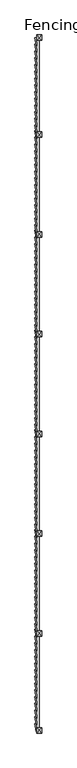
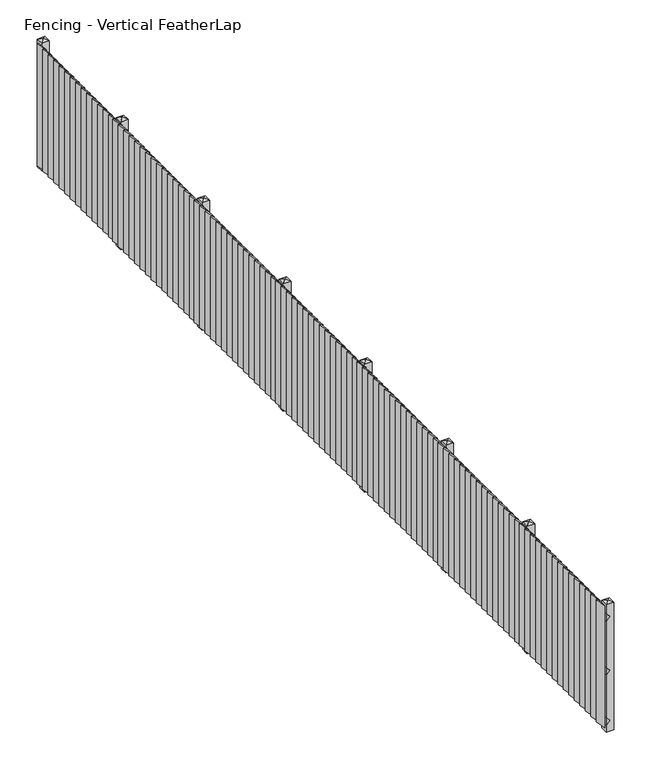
"""IFC4 building model written with IfcOpenShell, lengths in millimetres: railing geometry, Fencing - Vertical FeatherLap."""

from ifc_helpers import new_model, si_unit, frame, origin, place, context, project, spatial, polyline, outline, extrude, faceted_brep, source, transform, mapped, element, save


def fencing_vertical_featherlap_329c7854(model_context):
    return source(origin(), model_context, "Body", "SolidModel", [
        extrude(outline(polyline([(1600.0, 47498.4324334), (1650.0, 47448.4324334), (1550.0, 47448.4324334), (1600.0, 47498.4324334)])), frame((0.0, -56479.0868221, 0.0), z_axis=(0.0, 1.0, 0.0), x_axis=(0.0, 0.0, 1.0)), (0.0, 0.0, 1.0), 13000.0),
        extrude(outline(polyline([(850.0, 47498.4324334), (900.0, 47448.4324334), (800.0, 47448.4324334), (850.0, 47498.4324334)])), frame((0.0, -56479.0868221, 0.0), z_axis=(0.0, 1.0, 0.0), x_axis=(0.0, 0.0, 1.0)), (0.0, 0.0, 1.0), 13000.0),
        extrude(outline(polyline([(150.0, 47498.4324334), (200.0, 47448.4324334), (100.0, 47448.4324334), (150.0, 47498.4324334)])), frame((0.0, -56479.0868221, 0.0), z_axis=(0.0, 1.0, 0.0), x_axis=(0.0, 0.0, 1.0)), (0.0, 0.0, 1.0), 13000.0),
        extrude(outline(polyline([(47418.5500843, -43529.5694476), (47441.4725918, -43529.5694476), (47451.1115977, -43679.5694476), (47444.9991314, -43679.5694476), (47418.5500843, -43529.5694476)])), frame((0.0, 0.0, 50.0), z_axis=(0.0, 0.0, 1.0), x_axis=(1.0, 0.0, 0.0)), (0.0, 0.0, 1.0), 1700.0),
        extrude(outline(polyline([(47418.5500843, -43529.5694476), (47441.4725918, -43529.5694476), (47451.1115977, -43679.5694476), (47444.9991314, -43679.5694476), (47418.5500843, -43529.5694476)])), frame((0.0, 0.0, 50.0), z_axis=(0.0, 0.0, 1.0), x_axis=(1.0, 0.0, 0.0)), (0.0, 0.0, 1.0), 1700.0),
        extrude(outline(polyline([(47418.5500843, -43655.052073), (47441.4725918, -43655.052073), (47451.1115977, -43805.052073), (47444.9991314, -43805.052073), (47418.5500843, -43655.052073)])), frame((0.0, 0.0, 50.0), z_axis=(0.0, 0.0, 1.0), x_axis=(1.0, 0.0, 0.0)), (0.0, 0.0, 1.0), 1700.0),
        extrude(outline(polyline([(47418.5500843, -43780.5346985), (47441.4725918, -43780.5346985), (47451.1115977, -43930.5346985), (47444.9991314, -43930.5346985), (47418.5500843, -43780.5346985)])), frame((0.0, 0.0, 50.0), z_axis=(0.0, 0.0, 1.0), x_axis=(1.0, 0.0, 0.0)), (0.0, 0.0, 1.0), 1700.0),
        extrude(outline(polyline([(47418.5500843, -43906.017324), (47441.4725918, -43906.017324), (47451.1115977, -44056.017324), (47444.9991314, -44056.017324), (47418.5500843, -43906.017324)])), frame((0.0, 0.0, 50.0), z_axis=(0.0, 0.0, 1.0), x_axis=(1.0, 0.0, 0.0)), (0.0, 0.0, 1.0), 1700.0),
        extrude(outline(polyline([(47418.5500843, -44031.4999495), (47441.4725918, -44031.4999495), (47451.1115977, -44181.4999495), (47444.9991314, -44181.4999495), (47418.5500843, -44031.4999495)])), frame((0.0, 0.0, 50.0), z_axis=(0.0, 0.0, 1.0), x_axis=(1.0, 0.0, 0.0)), (0.0, 0.0, 1.0), 1700.0),
        extrude(outline(polyline([(47418.5500843, -44156.982575), (47441.4725918, -44156.982575), (47451.1115977, -44306.982575), (47444.9991314, -44306.982575), (47418.5500843, -44156.982575)])), frame((0.0, 0.0, 50.0), z_axis=(0.0, 0.0, 1.0), x_axis=(1.0, 0.0, 0.0)), (0.0, 0.0, 1.0), 1700.0),
        extrude(outline(polyline([(47418.5500843, -44282.4652004), (47441.4725918, -44282.4652004), (47451.1115977, -44432.4652004), (47444.9991314, -44432.4652004), (47418.5500843, -44282.4652004)])), frame((0.0, 0.0, 50.0), z_axis=(0.0, 0.0, 1.0), x_axis=(1.0, 0.0, 0.0)), (0.0, 0.0, 1.0), 1700.0),
        extrude(outline(polyline([(47418.5500843, -44407.9478259), (47441.4725918, -44407.9478259), (47451.1115977, -44557.9478259), (47444.9991314, -44557.9478259), (47418.5500843, -44407.9478259)])), frame((0.0, 0.0, 50.0), z_axis=(0.0, 0.0, 1.0), x_axis=(1.0, 0.0, 0.0)), (0.0, 0.0, 1.0), 1700.0),
        extrude(outline(polyline([(47418.5500843, -44533.4304514), (47441.4725918, -44533.4304514), (47451.1115977, -44683.4304514), (47444.9991314, -44683.4304514), (47418.5500843, -44533.4304514)])), frame((0.0, 0.0, 50.0), z_axis=(0.0, 0.0, 1.0), x_axis=(1.0, 0.0, 0.0)), (0.0, 0.0, 1.0), 1700.0),
        extrude(outline(polyline([(47418.5500843, -44658.9130769), (47441.4725918, -44658.9130769), (47451.1115977, -44808.9130769), (47444.9991314, -44808.9130769), (47418.5500843, -44658.9130769)])), frame((0.0, 0.0, 50.0), z_axis=(0.0, 0.0, 1.0), x_axis=(1.0, 0.0, 0.0)), (0.0, 0.0, 1.0), 1700.0),
        extrude(outline(polyline([(47418.5500843, -44784.3957024), (47441.4725918, -44784.3957024), (47451.1115977, -44934.3957024), (47444.9991314, -44934.3957024), (47418.5500843, -44784.3957024)])), frame((0.0, 0.0, 50.0), z_axis=(0.0, 0.0, 1.0), x_axis=(1.0, 0.0, 0.0)), (0.0, 0.0, 1.0), 1700.0),
        extrude(outline(polyline([(47418.5500843, -44909.8783279), (47441.4725918, -44909.8783279), (47451.1115977, -45059.8783279), (47444.9991314, -45059.8783279), (47418.5500843, -44909.8783279)])), frame((0.0, 0.0, 50.0), z_axis=(0.0, 0.0, 1.0), x_axis=(1.0, 0.0, 0.0)), (0.0, 0.0, 1.0), 1700.0),
        extrude(outline(polyline([(47418.5500843, -45035.3609533), (47441.4725918, -45035.3609533), (47451.1115977, -45185.3609533), (47444.9991314, -45185.3609533), (47418.5500843, -45035.3609533)])), frame((0.0, 0.0, 50.0), z_axis=(0.0, 0.0, 1.0), x_axis=(1.0, 0.0, 0.0)), (0.0, 0.0, 1.0), 1700.0),
        extrude(outline(polyline([(47418.5500843, -45160.8435788), (47441.4725918, -45160.8435788), (47451.1115977, -45310.8435788), (47444.9991314, -45310.8435788), (47418.5500843, -45160.8435788)])), frame((0.0, 0.0, 50.0), z_axis=(0.0, 0.0, 1.0), x_axis=(1.0, 0.0, 0.0)), (0.0, 0.0, 1.0), 1700.0),
        extrude(outline(polyline([(47418.5500843, -45261.2296792), (47441.4725918, -45261.2296792), (47451.1115977, -45411.2296792), (47444.9991314, -45411.2296792), (47418.5500843, -45261.2296792)])), frame((0.0, 0.0, 50.0), z_axis=(0.0, 0.0, 1.0), x_axis=(1.0, 0.0, 0.0)), (0.0, 0.0, 1.0), 1700.0),
        faceted_brep([(47448.4324334, -45286.2296792, 0.0), (47548.4324334, -45286.2296792, 0.0), (47548.4324334, -45386.2296792, 0.0), (47448.4324334, -45386.2296792, 0.0), (47448.4324334, -45386.2296792, 1777.8503862), (47448.4324334, -45286.2296792, 1777.8503862), (47548.4324334, -45386.2296792, 1777.8503862), (47548.4324334, -45286.2296792, 1777.8503862), (47498.4324334, -45336.2296792, 1800.0)], [[[0, 1, 2, 3]], [[0, 3, 4, 5]], [[3, 2, 6, 4]], [[2, 1, 7, 6]], [[1, 0, 5, 7]], [[5, 4, 8]], [[6, 7, 8]], [[7, 5, 8]], [[4, 6, 8]]]),
        extrude(outline(polyline([(47418.5500843, -45386.7123047), (47441.4725918, -45386.7123047), (47451.1115977, -45536.7123047), (47444.9991314, -45536.7123047), (47418.5500843, -45386.7123047)])), frame((0.0, 0.0, 50.0), z_axis=(0.0, 0.0, 1.0), x_axis=(1.0, 0.0, 0.0)), (0.0, 0.0, 1.0), 1700.0),
        extrude(outline(polyline([(47418.5500843, -45386.7123047), (47441.4725918, -45386.7123047), (47451.1115977, -45536.7123047), (47444.9991314, -45536.7123047), (47418.5500843, -45386.7123047)])), frame((0.0, 0.0, 50.0), z_axis=(0.0, 0.0, 1.0), x_axis=(1.0, 0.0, 0.0)), (0.0, 0.0, 1.0), 1700.0),
        extrude(outline(polyline([(47418.5500843, -45512.1949302), (47441.4725918, -45512.1949302), (47451.1115977, -45662.1949302), (47444.9991314, -45662.1949302), (47418.5500843, -45512.1949302)])), frame((0.0, 0.0, 50.0), z_axis=(0.0, 0.0, 1.0), x_axis=(1.0, 0.0, 0.0)), (0.0, 0.0, 1.0), 1700.0),
        extrude(outline(polyline([(47418.5500843, -45637.6775557), (47441.4725918, -45637.6775557), (47451.1115977, -45787.6775557), (47444.9991314, -45787.6775557), (47418.5500843, -45637.6775557)])), frame((0.0, 0.0, 50.0), z_axis=(0.0, 0.0, 1.0), x_axis=(1.0, 0.0, 0.0)), (0.0, 0.0, 1.0), 1700.0),
        extrude(outline(polyline([(47418.5500843, -45763.1601811), (47441.4725918, -45763.1601811), (47451.1115977, -45913.1601811), (47444.9991314, -45913.1601811), (47418.5500843, -45763.1601811)])), frame((0.0, 0.0, 50.0), z_axis=(0.0, 0.0, 1.0), x_axis=(1.0, 0.0, 0.0)), (0.0, 0.0, 1.0), 1700.0),
        extrude(outline(polyline([(47418.5500843, -45888.6428066), (47441.4725918, -45888.6428066), (47451.1115977, -46038.6428066), (47444.9991314, -46038.6428066), (47418.5500843, -45888.6428066)])), frame((0.0, 0.0, 50.0), z_axis=(0.0, 0.0, 1.0), x_axis=(1.0, 0.0, 0.0)), (0.0, 0.0, 1.0), 1700.0),
        extrude(outline(polyline([(47418.5500843, -46014.1254321), (47441.4725918, -46014.1254321), (47451.1115977, -46164.1254321), (47444.9991314, -46164.1254321), (47418.5500843, -46014.1254321)])), frame((0.0, 0.0, 50.0), z_axis=(0.0, 0.0, 1.0), x_axis=(1.0, 0.0, 0.0)), (0.0, 0.0, 1.0), 1700.0),
        extrude(outline(polyline([(47418.5500843, -46139.6080576), (47441.4725918, -46139.6080576), (47451.1115977, -46289.6080576), (47444.9991314, -46289.6080576), (47418.5500843, -46139.6080576)])), frame((0.0, 0.0, 50.0), z_axis=(0.0, 0.0, 1.0), x_axis=(1.0, 0.0, 0.0)), (0.0, 0.0, 1.0), 1700.0),
        extrude(outline(polyline([(47418.5500843, -46265.0906831), (47441.4725918, -46265.0906831), (47451.1115977, -46415.0906831), (47444.9991314, -46415.0906831), (47418.5500843, -46265.0906831)])), frame((0.0, 0.0, 50.0), z_axis=(0.0, 0.0, 1.0), x_axis=(1.0, 0.0, 0.0)), (0.0, 0.0, 1.0), 1700.0),
        extrude(outline(polyline([(47418.5500843, -46390.5733086), (47441.4725918, -46390.5733086), (47451.1115977, -46540.5733086), (47444.9991314, -46540.5733086), (47418.5500843, -46390.5733086)])), frame((0.0, 0.0, 50.0), z_axis=(0.0, 0.0, 1.0), x_axis=(1.0, 0.0, 0.0)), (0.0, 0.0, 1.0), 1700.0),
        extrude(outline(polyline([(47418.5500843, -46516.055934), (47441.4725918, -46516.055934), (47451.1115977, -46666.055934), (47444.9991314, -46666.055934), (47418.5500843, -46516.055934)])), frame((0.0, 0.0, 50.0), z_axis=(0.0, 0.0, 1.0), x_axis=(1.0, 0.0, 0.0)), (0.0, 0.0, 1.0), 1700.0),
        extrude(outline(polyline([(47418.5500843, -46641.5385595), (47441.4725918, -46641.5385595), (47451.1115977, -46791.5385595), (47444.9991314, -46791.5385595), (47418.5500843, -46641.5385595)])), frame((0.0, 0.0, 50.0), z_axis=(0.0, 0.0, 1.0), x_axis=(1.0, 0.0, 0.0)), (0.0, 0.0, 1.0), 1700.0),
        extrude(outline(polyline([(47418.5500843, -46767.021185), (47441.4725918, -46767.021185), (47451.1115977, -46917.021185), (47444.9991314, -46917.021185), (47418.5500843, -46767.021185)])), frame((0.0, 0.0, 50.0), z_axis=(0.0, 0.0, 1.0), x_axis=(1.0, 0.0, 0.0)), (0.0, 0.0, 1.0), 1700.0),
        extrude(outline(polyline([(47418.5500843, -46892.5038105), (47441.4725918, -46892.5038105), (47451.1115977, -47042.5038105), (47444.9991314, -47042.5038105), (47418.5500843, -46892.5038105)])), frame((0.0, 0.0, 50.0), z_axis=(0.0, 0.0, 1.0), x_axis=(1.0, 0.0, 0.0)), (0.0, 0.0, 1.0), 1700.0),
        extrude(outline(polyline([(47418.5500843, -47017.986436), (47441.4725918, -47017.986436), (47451.1115977, -47167.986436), (47444.9991314, -47167.986436), (47418.5500843, -47017.986436)])), frame((0.0, 0.0, 50.0), z_axis=(0.0, 0.0, 1.0), x_axis=(1.0, 0.0, 0.0)), (0.0, 0.0, 1.0), 1700.0),
        extrude(outline(polyline([(47418.5500843, -47118.3725364), (47441.4725918, -47118.3725364), (47451.1115977, -47268.3725364), (47444.9991314, -47268.3725364), (47418.5500843, -47118.3725364)])), frame((0.0, 0.0, 50.0), z_axis=(0.0, 0.0, 1.0), x_axis=(1.0, 0.0, 0.0)), (0.0, 0.0, 1.0), 1700.0),
        faceted_brep([(47448.4324334, -47143.3725364, 0.0), (47548.4324334, -47143.3725364, 0.0), (47548.4324334, -47243.3725364, 0.0), (47448.4324334, -47243.3725364, 0.0), (47448.4324334, -47243.3725364, 1777.8503862), (47448.4324334, -47143.3725364, 1777.8503862), (47548.4324334, -47243.3725364, 1777.8503862), (47548.4324334, -47143.3725364, 1777.8503862), (47498.4324334, -47193.3725364, 1800.0)], [[[0, 1, 2, 3]], [[0, 3, 4, 5]], [[3, 2, 6, 4]], [[2, 1, 7, 6]], [[1, 0, 5, 7]], [[5, 4, 8]], [[6, 7, 8]], [[7, 5, 8]], [[4, 6, 8]]]),
        extrude(outline(polyline([(47418.5500843, -47243.8551618), (47441.4725918, -47243.8551618), (47451.1115977, -47393.8551618), (47444.9991314, -47393.8551618), (47418.5500843, -47243.8551618)])), frame((0.0, 0.0, 50.0), z_axis=(0.0, 0.0, 1.0), x_axis=(1.0, 0.0, 0.0)), (0.0, 0.0, 1.0), 1700.0),
        extrude(outline(polyline([(47418.5500843, -47243.8551618), (47441.4725918, -47243.8551618), (47451.1115977, -47393.8551618), (47444.9991314, -47393.8551618), (47418.5500843, -47243.8551618)])), frame((0.0, 0.0, 50.0), z_axis=(0.0, 0.0, 1.0), x_axis=(1.0, 0.0, 0.0)), (0.0, 0.0, 1.0), 1700.0),
        extrude(outline(polyline([(47418.5500843, -47369.3377873), (47441.4725918, -47369.3377873), (47451.1115977, -47519.3377873), (47444.9991314, -47519.3377873), (47418.5500843, -47369.3377873)])), frame((0.0, 0.0, 50.0), z_axis=(0.0, 0.0, 1.0), x_axis=(1.0, 0.0, 0.0)), (0.0, 0.0, 1.0), 1700.0),
        extrude(outline(polyline([(47418.5500843, -47494.8204128), (47441.4725918, -47494.8204128), (47451.1115977, -47644.8204128), (47444.9991314, -47644.8204128), (47418.5500843, -47494.8204128)])), frame((0.0, 0.0, 50.0), z_axis=(0.0, 0.0, 1.0), x_axis=(1.0, 0.0, 0.0)), (0.0, 0.0, 1.0), 1700.0),
        extrude(outline(polyline([(47418.5500843, -47620.3030383), (47441.4725918, -47620.3030383), (47451.1115977, -47770.3030383), (47444.9991314, -47770.3030383), (47418.5500843, -47620.3030383)])), frame((0.0, 0.0, 50.0), z_axis=(0.0, 0.0, 1.0), x_axis=(1.0, 0.0, 0.0)), (0.0, 0.0, 1.0), 1700.0),
        extrude(outline(polyline([(47418.5500843, -47745.7856638), (47441.4725918, -47745.7856638), (47451.1115977, -47895.7856638), (47444.9991314, -47895.7856638), (47418.5500843, -47745.7856638)])), frame((0.0, 0.0, 50.0), z_axis=(0.0, 0.0, 1.0), x_axis=(1.0, 0.0, 0.0)), (0.0, 0.0, 1.0), 1700.0),
        extrude(outline(polyline([(47418.5500843, -47871.2682893), (47441.4725918, -47871.2682893), (47451.1115977, -48021.2682893), (47444.9991314, -48021.2682893), (47418.5500843, -47871.2682893)])), frame((0.0, 0.0, 50.0), z_axis=(0.0, 0.0, 1.0), x_axis=(1.0, 0.0, 0.0)), (0.0, 0.0, 1.0), 1700.0),
        extrude(outline(polyline([(47418.5500843, -47996.7509147), (47441.4725918, -47996.7509147), (47451.1115977, -48146.7509147), (47444.9991314, -48146.7509147), (47418.5500843, -47996.7509147)])), frame((0.0, 0.0, 50.0), z_axis=(0.0, 0.0, 1.0), x_axis=(1.0, 0.0, 0.0)), (0.0, 0.0, 1.0), 1700.0),
        extrude(outline(polyline([(47418.5500843, -48122.2335402), (47441.4725918, -48122.2335402), (47451.1115977, -48272.2335402), (47444.9991314, -48272.2335402), (47418.5500843, -48122.2335402)])), frame((0.0, 0.0, 50.0), z_axis=(0.0, 0.0, 1.0), x_axis=(1.0, 0.0, 0.0)), (0.0, 0.0, 1.0), 1700.0),
        extrude(outline(polyline([(47418.5500843, -48247.7161657), (47441.4725918, -48247.7161657), (47451.1115977, -48397.7161657), (47444.9991314, -48397.7161657), (47418.5500843, -48247.7161657)])), frame((0.0, 0.0, 50.0), z_axis=(0.0, 0.0, 1.0), x_axis=(1.0, 0.0, 0.0)), (0.0, 0.0, 1.0), 1700.0),
        extrude(outline(polyline([(47418.5500843, -48373.1987912), (47441.4725918, -48373.1987912), (47451.1115977, -48523.1987912), (47444.9991314, -48523.1987912), (47418.5500843, -48373.1987912)])), frame((0.0, 0.0, 50.0), z_axis=(0.0, 0.0, 1.0), x_axis=(1.0, 0.0, 0.0)), (0.0, 0.0, 1.0), 1700.0),
        extrude(outline(polyline([(47418.5500843, -48498.6814167), (47441.4725918, -48498.6814167), (47451.1115977, -48648.6814167), (47444.9991314, -48648.6814167), (47418.5500843, -48498.6814167)])), frame((0.0, 0.0, 50.0), z_axis=(0.0, 0.0, 1.0), x_axis=(1.0, 0.0, 0.0)), (0.0, 0.0, 1.0), 1700.0),
        extrude(outline(polyline([(47418.5500843, -48624.1640421), (47441.4725918, -48624.1640421), (47451.1115977, -48774.1640421), (47444.9991314, -48774.1640421), (47418.5500843, -48624.1640421)])), frame((0.0, 0.0, 50.0), z_axis=(0.0, 0.0, 1.0), x_axis=(1.0, 0.0, 0.0)), (0.0, 0.0, 1.0), 1700.0),
        extrude(outline(polyline([(47418.5500843, -48749.6466676), (47441.4725918, -48749.6466676), (47451.1115977, -48899.6466676), (47444.9991314, -48899.6466676), (47418.5500843, -48749.6466676)])), frame((0.0, 0.0, 50.0), z_axis=(0.0, 0.0, 1.0), x_axis=(1.0, 0.0, 0.0)), (0.0, 0.0, 1.0), 1700.0),
        extrude(outline(polyline([(47418.5500843, -48875.1292931), (47441.4725918, -48875.1292931), (47451.1115977, -49025.1292931), (47444.9991314, -49025.1292931), (47418.5500843, -48875.1292931)])), frame((0.0, 0.0, 50.0), z_axis=(0.0, 0.0, 1.0), x_axis=(1.0, 0.0, 0.0)), (0.0, 0.0, 1.0), 1700.0),
        extrude(outline(polyline([(47418.5500843, -48975.5153935), (47441.4725918, -48975.5153935), (47451.1115977, -49125.5153935), (47444.9991314, -49125.5153935), (47418.5500843, -48975.5153935)])), frame((0.0, 0.0, 50.0), z_axis=(0.0, 0.0, 1.0), x_axis=(1.0, 0.0, 0.0)), (0.0, 0.0, 1.0), 1700.0),
        faceted_brep([(47448.4324334, -49000.5153935, 0.0), (47548.4324334, -49000.5153935, 0.0), (47548.4324334, -49100.5153935, 0.0), (47448.4324334, -49100.5153935, 0.0), (47448.4324334, -49100.5153935, 1777.8503862), (47448.4324334, -49000.5153935, 1777.8503862), (47548.4324334, -49100.5153935, 1777.8503862), (47548.4324334, -49000.5153935, 1777.8503862), (47498.4324334, -49050.5153935, 1800.0)], [[[0, 1, 2, 3]], [[0, 3, 4, 5]], [[3, 2, 6, 4]], [[2, 1, 7, 6]], [[1, 0, 5, 7]], [[5, 4, 8]], [[6, 7, 8]], [[7, 5, 8]], [[4, 6, 8]]]),
        extrude(outline(polyline([(47418.5500843, -49100.998019), (47441.4725918, -49100.998019), (47451.1115977, -49250.998019), (47444.9991314, -49250.998019), (47418.5500843, -49100.998019)])), frame((0.0, 0.0, 50.0), z_axis=(0.0, 0.0, 1.0), x_axis=(1.0, 0.0, 0.0)), (0.0, 0.0, 1.0), 1700.0),
        extrude(outline(polyline([(47418.5500843, -49100.998019), (47441.4725918, -49100.998019), (47451.1115977, -49250.998019), (47444.9991314, -49250.998019), (47418.5500843, -49100.998019)])), frame((0.0, 0.0, 50.0), z_axis=(0.0, 0.0, 1.0), x_axis=(1.0, 0.0, 0.0)), (0.0, 0.0, 1.0), 1700.0),
        extrude(outline(polyline([(47418.5500843, -49226.4806445), (47441.4725918, -49226.4806445), (47451.1115977, -49376.4806445), (47444.9991314, -49376.4806445), (47418.5500843, -49226.4806445)])), frame((0.0, 0.0, 50.0), z_axis=(0.0, 0.0, 1.0), x_axis=(1.0, 0.0, 0.0)), (0.0, 0.0, 1.0), 1700.0),
        extrude(outline(polyline([(47418.5500843, -49351.9632699), (47441.4725918, -49351.9632699), (47451.1115977, -49501.9632699), (47444.9991314, -49501.9632699), (47418.5500843, -49351.9632699)])), frame((0.0, 0.0, 50.0), z_axis=(0.0, 0.0, 1.0), x_axis=(1.0, 0.0, 0.0)), (0.0, 0.0, 1.0), 1700.0),
        extrude(outline(polyline([(47418.5500843, -49477.4458954), (47441.4725918, -49477.4458954), (47451.1115977, -49627.4458954), (47444.9991314, -49627.4458954), (47418.5500843, -49477.4458954)])), frame((0.0, 0.0, 50.0), z_axis=(0.0, 0.0, 1.0), x_axis=(1.0, 0.0, 0.0)), (0.0, 0.0, 1.0), 1700.0),
        extrude(outline(polyline([(47418.5500843, -49602.9285209), (47441.4725918, -49602.9285209), (47451.1115977, -49752.9285209), (47444.9991314, -49752.9285209), (47418.5500843, -49602.9285209)])), frame((0.0, 0.0, 50.0), z_axis=(0.0, 0.0, 1.0), x_axis=(1.0, 0.0, 0.0)), (0.0, 0.0, 1.0), 1700.0),
        extrude(outline(polyline([(47418.5500843, -49728.4111464), (47441.4725918, -49728.4111464), (47451.1115977, -49878.4111464), (47444.9991314, -49878.4111464), (47418.5500843, -49728.4111464)])), frame((0.0, 0.0, 50.0), z_axis=(0.0, 0.0, 1.0), x_axis=(1.0, 0.0, 0.0)), (0.0, 0.0, 1.0), 1700.0),
        extrude(outline(polyline([(47418.5500843, -49853.8937719), (47441.4725918, -49853.8937719), (47451.1115977, -50003.8937719), (47444.9991314, -50003.8937719), (47418.5500843, -49853.8937719)])), frame((0.0, 0.0, 50.0), z_axis=(0.0, 0.0, 1.0), x_axis=(1.0, 0.0, 0.0)), (0.0, 0.0, 1.0), 1700.0),
        extrude(outline(polyline([(47418.5500843, -49979.3763974), (47441.4725918, -49979.3763974), (47451.1115977, -50129.3763974), (47444.9991314, -50129.3763974), (47418.5500843, -49979.3763974)])), frame((0.0, 0.0, 50.0), z_axis=(0.0, 0.0, 1.0), x_axis=(1.0, 0.0, 0.0)), (0.0, 0.0, 1.0), 1700.0),
        extrude(outline(polyline([(47418.5500843, -50104.8590228), (47441.4725918, -50104.8590228), (47451.1115977, -50254.8590228), (47444.9991314, -50254.8590228), (47418.5500843, -50104.8590228)])), frame((0.0, 0.0, 50.0), z_axis=(0.0, 0.0, 1.0), x_axis=(1.0, 0.0, 0.0)), (0.0, 0.0, 1.0), 1700.0),
        extrude(outline(polyline([(47418.5500843, -50230.3416483), (47441.4725918, -50230.3416483), (47451.1115977, -50380.3416483), (47444.9991314, -50380.3416483), (47418.5500843, -50230.3416483)])), frame((0.0, 0.0, 50.0), z_axis=(0.0, 0.0, 1.0), x_axis=(1.0, 0.0, 0.0)), (0.0, 0.0, 1.0), 1700.0),
        extrude(outline(polyline([(47418.5500843, -50355.8242738), (47441.4725918, -50355.8242738), (47451.1115977, -50505.8242738), (47444.9991314, -50505.8242738), (47418.5500843, -50355.8242738)])), frame((0.0, 0.0, 50.0), z_axis=(0.0, 0.0, 1.0), x_axis=(1.0, 0.0, 0.0)), (0.0, 0.0, 1.0), 1700.0),
        extrude(outline(polyline([(47418.5500843, -50481.3068993), (47441.4725918, -50481.3068993), (47451.1115977, -50631.3068993), (47444.9991314, -50631.3068993), (47418.5500843, -50481.3068993)])), frame((0.0, 0.0, 50.0), z_axis=(0.0, 0.0, 1.0), x_axis=(1.0, 0.0, 0.0)), (0.0, 0.0, 1.0), 1700.0),
        extrude(outline(polyline([(47418.5500843, -50606.7895248), (47441.4725918, -50606.7895248), (47451.1115977, -50756.7895248), (47444.9991314, -50756.7895248), (47418.5500843, -50606.7895248)])), frame((0.0, 0.0, 50.0), z_axis=(0.0, 0.0, 1.0), x_axis=(1.0, 0.0, 0.0)), (0.0, 0.0, 1.0), 1700.0),
        extrude(outline(polyline([(47418.5500843, -50732.2721503), (47441.4725918, -50732.2721503), (47451.1115977, -50882.2721503), (47444.9991314, -50882.2721503), (47418.5500843, -50732.2721503)])), frame((0.0, 0.0, 50.0), z_axis=(0.0, 0.0, 1.0), x_axis=(1.0, 0.0, 0.0)), (0.0, 0.0, 1.0), 1700.0),
        extrude(outline(polyline([(47418.5500843, -50832.6582506), (47441.4725918, -50832.6582506), (47451.1115977, -50982.6582506), (47444.9991314, -50982.6582506), (47418.5500843, -50832.6582506)])), frame((0.0, 0.0, 50.0), z_axis=(0.0, 0.0, 1.0), x_axis=(1.0, 0.0, 0.0)), (0.0, 0.0, 1.0), 1700.0),
        faceted_brep([(47448.4324334, -50857.6582506, 0.0), (47548.4324334, -50857.6582506, 0.0), (47548.4324334, -50957.6582506, 0.0), (47448.4324334, -50957.6582506, 0.0), (47448.4324334, -50957.6582506, 1777.8503862), (47448.4324334, -50857.6582506, 1777.8503862), (47548.4324334, -50957.6582506, 1777.8503862), (47548.4324334, -50857.6582506, 1777.8503862), (47498.4324334, -50907.6582506, 1800.0)], [[[0, 1, 2, 3]], [[0, 3, 4, 5]], [[3, 2, 6, 4]], [[2, 1, 7, 6]], [[1, 0, 5, 7]], [[5, 4, 8]], [[6, 7, 8]], [[7, 5, 8]], [[4, 6, 8]]]),
        extrude(outline(polyline([(47418.5500843, -50958.1408761), (47441.4725918, -50958.1408761), (47451.1115977, -51108.1408761), (47444.9991314, -51108.1408761), (47418.5500843, -50958.1408761)])), frame((0.0, 0.0, 50.0), z_axis=(0.0, 0.0, 1.0), x_axis=(1.0, 0.0, 0.0)), (0.0, 0.0, 1.0), 1700.0),
        extrude(outline(polyline([(47418.5500843, -50958.1408761), (47441.4725918, -50958.1408761), (47451.1115977, -51108.1408761), (47444.9991314, -51108.1408761), (47418.5500843, -50958.1408761)])), frame((0.0, 0.0, 50.0), z_axis=(0.0, 0.0, 1.0), x_axis=(1.0, 0.0, 0.0)), (0.0, 0.0, 1.0), 1700.0),
        extrude(outline(polyline([(47418.5500843, -51083.6235016), (47441.4725918, -51083.6235016), (47451.1115977, -51233.6235016), (47444.9991314, -51233.6235016), (47418.5500843, -51083.6235016)])), frame((0.0, 0.0, 50.0), z_axis=(0.0, 0.0, 1.0), x_axis=(1.0, 0.0, 0.0)), (0.0, 0.0, 1.0), 1700.0),
        extrude(outline(polyline([(47418.5500843, -51209.1061271), (47441.4725918, -51209.1061271), (47451.1115977, -51359.1061271), (47444.9991314, -51359.1061271), (47418.5500843, -51209.1061271)])), frame((0.0, 0.0, 50.0), z_axis=(0.0, 0.0, 1.0), x_axis=(1.0, 0.0, 0.0)), (0.0, 0.0, 1.0), 1700.0),
        extrude(outline(polyline([(47418.5500843, -51334.5887526), (47441.4725918, -51334.5887526), (47451.1115977, -51484.5887526), (47444.9991314, -51484.5887526), (47418.5500843, -51334.5887526)])), frame((0.0, 0.0, 50.0), z_axis=(0.0, 0.0, 1.0), x_axis=(1.0, 0.0, 0.0)), (0.0, 0.0, 1.0), 1700.0),
        extrude(outline(polyline([(47418.5500843, -51460.0713781), (47441.4725918, -51460.0713781), (47451.1115977, -51610.0713781), (47444.9991314, -51610.0713781), (47418.5500843, -51460.0713781)])), frame((0.0, 0.0, 50.0), z_axis=(0.0, 0.0, 1.0), x_axis=(1.0, 0.0, 0.0)), (0.0, 0.0, 1.0), 1700.0),
        extrude(outline(polyline([(47418.5500843, -51585.5540035), (47441.4725918, -51585.5540035), (47451.1115977, -51735.5540035), (47444.9991314, -51735.5540035), (47418.5500843, -51585.5540035)])), frame((0.0, 0.0, 50.0), z_axis=(0.0, 0.0, 1.0), x_axis=(1.0, 0.0, 0.0)), (0.0, 0.0, 1.0), 1700.0),
        extrude(outline(polyline([(47418.5500843, -51711.036629), (47441.4725918, -51711.036629), (47451.1115977, -51861.036629), (47444.9991314, -51861.036629), (47418.5500843, -51711.036629)])), frame((0.0, 0.0, 50.0), z_axis=(0.0, 0.0, 1.0), x_axis=(1.0, 0.0, 0.0)), (0.0, 0.0, 1.0), 1700.0),
        extrude(outline(polyline([(47418.5500843, -51836.5192545), (47441.4725918, -51836.5192545), (47451.1115977, -51986.5192545), (47444.9991314, -51986.5192545), (47418.5500843, -51836.5192545)])), frame((0.0, 0.0, 50.0), z_axis=(0.0, 0.0, 1.0), x_axis=(1.0, 0.0, 0.0)), (0.0, 0.0, 1.0), 1700.0),
        extrude(outline(polyline([(47418.5500843, -51962.00188), (47441.4725918, -51962.00188), (47451.1115977, -52112.00188), (47444.9991314, -52112.00188), (47418.5500843, -51962.00188)])), frame((0.0, 0.0, 50.0), z_axis=(0.0, 0.0, 1.0), x_axis=(1.0, 0.0, 0.0)), (0.0, 0.0, 1.0), 1700.0),
        extrude(outline(polyline([(47418.5500843, -52087.4845055), (47441.4725918, -52087.4845055), (47451.1115977, -52237.4845055), (47444.9991314, -52237.4845055), (47418.5500843, -52087.4845055)])), frame((0.0, 0.0, 50.0), z_axis=(0.0, 0.0, 1.0), x_axis=(1.0, 0.0, 0.0)), (0.0, 0.0, 1.0), 1700.0),
        extrude(outline(polyline([(47418.5500843, -52212.967131), (47441.4725918, -52212.967131), (47451.1115977, -52362.967131), (47444.9991314, -52362.967131), (47418.5500843, -52212.967131)])), frame((0.0, 0.0, 50.0), z_axis=(0.0, 0.0, 1.0), x_axis=(1.0, 0.0, 0.0)), (0.0, 0.0, 1.0), 1700.0),
        extrude(outline(polyline([(47418.5500843, -52338.4497564), (47441.4725918, -52338.4497564), (47451.1115977, -52488.4497564), (47444.9991314, -52488.4497564), (47418.5500843, -52338.4497564)])), frame((0.0, 0.0, 50.0), z_axis=(0.0, 0.0, 1.0), x_axis=(1.0, 0.0, 0.0)), (0.0, 0.0, 1.0), 1700.0),
        extrude(outline(polyline([(47418.5500843, -52463.9323819), (47441.4725918, -52463.9323819), (47451.1115977, -52613.9323819), (47444.9991314, -52613.9323819), (47418.5500843, -52463.9323819)])), frame((0.0, 0.0, 50.0), z_axis=(0.0, 0.0, 1.0), x_axis=(1.0, 0.0, 0.0)), (0.0, 0.0, 1.0), 1700.0),
        extrude(outline(polyline([(47418.5500843, -52589.4150074), (47441.4725918, -52589.4150074), (47451.1115977, -52739.4150074), (47444.9991314, -52739.4150074), (47418.5500843, -52589.4150074)])), frame((0.0, 0.0, 50.0), z_axis=(0.0, 0.0, 1.0), x_axis=(1.0, 0.0, 0.0)), (0.0, 0.0, 1.0), 1700.0),
        extrude(outline(polyline([(47418.5500843, -52689.8011078), (47441.4725918, -52689.8011078), (47451.1115977, -52839.8011078), (47444.9991314, -52839.8011078), (47418.5500843, -52689.8011078)])), frame((0.0, 0.0, 50.0), z_axis=(0.0, 0.0, 1.0), x_axis=(1.0, 0.0, 0.0)), (0.0, 0.0, 1.0), 1700.0),
        faceted_brep([(47448.4324334, -52714.8011078, 0.0), (47548.4324334, -52714.8011078, 0.0), (47548.4324334, -52814.8011078, 0.0), (47448.4324334, -52814.8011078, 0.0), (47448.4324334, -52814.8011078, 1777.8503862), (47448.4324334, -52714.8011078, 1777.8503862), (47548.4324334, -52814.8011078, 1777.8503862), (47548.4324334, -52714.8011078, 1777.8503862), (47498.4324334, -52764.8011078, 1800.0)], [[[0, 1, 2, 3]], [[0, 3, 4, 5]], [[3, 2, 6, 4]], [[2, 1, 7, 6]], [[1, 0, 5, 7]], [[5, 4, 8]], [[6, 7, 8]], [[7, 5, 8]], [[4, 6, 8]]]),
        extrude(outline(polyline([(47418.5500843, -52815.2837333), (47441.4725918, -52815.2837333), (47451.1115977, -52965.2837333), (47444.9991314, -52965.2837333), (47418.5500843, -52815.2837333)])), frame((0.0, 0.0, 50.0), z_axis=(0.0, 0.0, 1.0), x_axis=(1.0, 0.0, 0.0)), (0.0, 0.0, 1.0), 1700.0),
        extrude(outline(polyline([(47418.5500843, -52815.2837333), (47441.4725918, -52815.2837333), (47451.1115977, -52965.2837333), (47444.9991314, -52965.2837333), (47418.5500843, -52815.2837333)])), frame((0.0, 0.0, 50.0), z_axis=(0.0, 0.0, 1.0), x_axis=(1.0, 0.0, 0.0)), (0.0, 0.0, 1.0), 1700.0),
        extrude(outline(polyline([(47418.5500843, -52940.7663588), (47441.4725918, -52940.7663588), (47451.1115977, -53090.7663588), (47444.9991314, -53090.7663588), (47418.5500843, -52940.7663588)])), frame((0.0, 0.0, 50.0), z_axis=(0.0, 0.0, 1.0), x_axis=(1.0, 0.0, 0.0)), (0.0, 0.0, 1.0), 1700.0),
        extrude(outline(polyline([(47418.5500843, -53066.2489842), (47441.4725918, -53066.2489842), (47451.1115977, -53216.2489842), (47444.9991314, -53216.2489842), (47418.5500843, -53066.2489842)])), frame((0.0, 0.0, 50.0), z_axis=(0.0, 0.0, 1.0), x_axis=(1.0, 0.0, 0.0)), (0.0, 0.0, 1.0), 1700.0),
        extrude(outline(polyline([(47418.5500843, -53191.7316097), (47441.4725918, -53191.7316097), (47451.1115977, -53341.7316097), (47444.9991314, -53341.7316097), (47418.5500843, -53191.7316097)])), frame((0.0, 0.0, 50.0), z_axis=(0.0, 0.0, 1.0), x_axis=(1.0, 0.0, 0.0)), (0.0, 0.0, 1.0), 1700.0),
        extrude(outline(polyline([(47418.5500843, -53317.2142352), (47441.4725918, -53317.2142352), (47451.1115977, -53467.2142352), (47444.9991314, -53467.2142352), (47418.5500843, -53317.2142352)])), frame((0.0, 0.0, 50.0), z_axis=(0.0, 0.0, 1.0), x_axis=(1.0, 0.0, 0.0)), (0.0, 0.0, 1.0), 1700.0),
        extrude(outline(polyline([(47418.5500843, -53442.6968607), (47441.4725918, -53442.6968607), (47451.1115977, -53592.6968607), (47444.9991314, -53592.6968607), (47418.5500843, -53442.6968607)])), frame((0.0, 0.0, 50.0), z_axis=(0.0, 0.0, 1.0), x_axis=(1.0, 0.0, 0.0)), (0.0, 0.0, 1.0), 1700.0),
        extrude(outline(polyline([(47418.5500843, -53568.1794862), (47441.4725918, -53568.1794862), (47451.1115977, -53718.1794862), (47444.9991314, -53718.1794862), (47418.5500843, -53568.1794862)])), frame((0.0, 0.0, 50.0), z_axis=(0.0, 0.0, 1.0), x_axis=(1.0, 0.0, 0.0)), (0.0, 0.0, 1.0), 1700.0),
        extrude(outline(polyline([(47418.5500843, -53693.6621116), (47441.4725918, -53693.6621116), (47451.1115977, -53843.6621116), (47444.9991314, -53843.6621116), (47418.5500843, -53693.6621116)])), frame((0.0, 0.0, 50.0), z_axis=(0.0, 0.0, 1.0), x_axis=(1.0, 0.0, 0.0)), (0.0, 0.0, 1.0), 1700.0),
        extrude(outline(polyline([(47418.5500843, -53819.1447371), (47441.4725918, -53819.1447371), (47451.1115977, -53969.1447371), (47444.9991314, -53969.1447371), (47418.5500843, -53819.1447371)])), frame((0.0, 0.0, 50.0), z_axis=(0.0, 0.0, 1.0), x_axis=(1.0, 0.0, 0.0)), (0.0, 0.0, 1.0), 1700.0),
        extrude(outline(polyline([(47418.5500843, -53944.6273626), (47441.4725918, -53944.6273626), (47451.1115977, -54094.6273626), (47444.9991314, -54094.6273626), (47418.5500843, -53944.6273626)])), frame((0.0, 0.0, 50.0), z_axis=(0.0, 0.0, 1.0), x_axis=(1.0, 0.0, 0.0)), (0.0, 0.0, 1.0), 1700.0),
        extrude(outline(polyline([(47418.5500843, -54070.1099881), (47441.4725918, -54070.1099881), (47451.1115977, -54220.1099881), (47444.9991314, -54220.1099881), (47418.5500843, -54070.1099881)])), frame((0.0, 0.0, 50.0), z_axis=(0.0, 0.0, 1.0), x_axis=(1.0, 0.0, 0.0)), (0.0, 0.0, 1.0), 1700.0),
        extrude(outline(polyline([(47418.5500843, -54195.5926136), (47441.4725918, -54195.5926136), (47451.1115977, -54345.5926136), (47444.9991314, -54345.5926136), (47418.5500843, -54195.5926136)])), frame((0.0, 0.0, 50.0), z_axis=(0.0, 0.0, 1.0), x_axis=(1.0, 0.0, 0.0)), (0.0, 0.0, 1.0), 1700.0),
        extrude(outline(polyline([(47418.5500843, -54321.0752391), (47441.4725918, -54321.0752391), (47451.1115977, -54471.0752391), (47444.9991314, -54471.0752391), (47418.5500843, -54321.0752391)])), frame((0.0, 0.0, 50.0), z_axis=(0.0, 0.0, 1.0), x_axis=(1.0, 0.0, 0.0)), (0.0, 0.0, 1.0), 1700.0),
        extrude(outline(polyline([(47418.5500843, -54446.5578645), (47441.4725918, -54446.5578645), (47451.1115977, -54596.5578645), (47444.9991314, -54596.5578645), (47418.5500843, -54446.5578645)])), frame((0.0, 0.0, 50.0), z_axis=(0.0, 0.0, 1.0), x_axis=(1.0, 0.0, 0.0)), (0.0, 0.0, 1.0), 1700.0),
        extrude(outline(polyline([(47418.5500843, -54546.9439649), (47441.4725918, -54546.9439649), (47451.1115977, -54696.9439649), (47444.9991314, -54696.9439649), (47418.5500843, -54546.9439649)])), frame((0.0, 0.0, 50.0), z_axis=(0.0, 0.0, 1.0), x_axis=(1.0, 0.0, 0.0)), (0.0, 0.0, 1.0), 1700.0),
        faceted_brep([(47448.4324334, -54571.9439649, 0.0), (47548.4324334, -54571.9439649, 0.0), (47548.4324334, -54671.9439649, 0.0), (47448.4324334, -54671.9439649, 0.0), (47448.4324334, -54671.9439649, 1777.8503862), (47448.4324334, -54571.9439649, 1777.8503862), (47548.4324334, -54671.9439649, 1777.8503862), (47548.4324334, -54571.9439649, 1777.8503862), (47498.4324334, -54621.9439649, 1800.0)], [[[0, 1, 2, 3]], [[0, 3, 4, 5]], [[3, 2, 6, 4]], [[2, 1, 7, 6]], [[1, 0, 5, 7]], [[5, 4, 8]], [[6, 7, 8]], [[7, 5, 8]], [[4, 6, 8]]]),
        extrude(outline(polyline([(47418.5500843, -54672.4265904), (47441.4725918, -54672.4265904), (47451.1115977, -54822.4265904), (47444.9991314, -54822.4265904), (47418.5500843, -54672.4265904)])), frame((0.0, 0.0, 50.0), z_axis=(0.0, 0.0, 1.0), x_axis=(1.0, 0.0, 0.0)), (0.0, 0.0, 1.0), 1700.0),
        extrude(outline(polyline([(47418.5500843, -54672.4265904), (47441.4725918, -54672.4265904), (47451.1115977, -54822.4265904), (47444.9991314, -54822.4265904), (47418.5500843, -54672.4265904)])), frame((0.0, 0.0, 50.0), z_axis=(0.0, 0.0, 1.0), x_axis=(1.0, 0.0, 0.0)), (0.0, 0.0, 1.0), 1700.0),
        extrude(outline(polyline([(47418.5500843, -54797.9092159), (47441.4725918, -54797.9092159), (47451.1115977, -54947.9092159), (47444.9991314, -54947.9092159), (47418.5500843, -54797.9092159)])), frame((0.0, 0.0, 50.0), z_axis=(0.0, 0.0, 1.0), x_axis=(1.0, 0.0, 0.0)), (0.0, 0.0, 1.0), 1700.0),
        extrude(outline(polyline([(47418.5500843, -54923.3918414), (47441.4725918, -54923.3918414), (47451.1115977, -55073.3918414), (47444.9991314, -55073.3918414), (47418.5500843, -54923.3918414)])), frame((0.0, 0.0, 50.0), z_axis=(0.0, 0.0, 1.0), x_axis=(1.0, 0.0, 0.0)), (0.0, 0.0, 1.0), 1700.0),
        extrude(outline(polyline([(47418.5500843, -55048.8744669), (47441.4725918, -55048.8744669), (47451.1115977, -55198.8744669), (47444.9991314, -55198.8744669), (47418.5500843, -55048.8744669)])), frame((0.0, 0.0, 50.0), z_axis=(0.0, 0.0, 1.0), x_axis=(1.0, 0.0, 0.0)), (0.0, 0.0, 1.0), 1700.0),
        extrude(outline(polyline([(47418.5500843, -55174.3570923), (47441.4725918, -55174.3570923), (47451.1115977, -55324.3570923), (47444.9991314, -55324.3570923), (47418.5500843, -55174.3570923)])), frame((0.0, 0.0, 50.0), z_axis=(0.0, 0.0, 1.0), x_axis=(1.0, 0.0, 0.0)), (0.0, 0.0, 1.0), 1700.0),
        extrude(outline(polyline([(47418.5500843, -55299.8397178), (47441.4725918, -55299.8397178), (47451.1115977, -55449.8397178), (47444.9991314, -55449.8397178), (47418.5500843, -55299.8397178)])), frame((0.0, 0.0, 50.0), z_axis=(0.0, 0.0, 1.0), x_axis=(1.0, 0.0, 0.0)), (0.0, 0.0, 1.0), 1700.0),
        extrude(outline(polyline([(47418.5500843, -55425.3223433), (47441.4725918, -55425.3223433), (47451.1115977, -55575.3223433), (47444.9991314, -55575.3223433), (47418.5500843, -55425.3223433)])), frame((0.0, 0.0, 50.0), z_axis=(0.0, 0.0, 1.0), x_axis=(1.0, 0.0, 0.0)), (0.0, 0.0, 1.0), 1700.0),
        extrude(outline(polyline([(47418.5500843, -55550.8049688), (47441.4725918, -55550.8049688), (47451.1115977, -55700.8049688), (47444.9991314, -55700.8049688), (47418.5500843, -55550.8049688)])), frame((0.0, 0.0, 50.0), z_axis=(0.0, 0.0, 1.0), x_axis=(1.0, 0.0, 0.0)), (0.0, 0.0, 1.0), 1700.0),
        extrude(outline(polyline([(47418.5500843, -55676.2875943), (47441.4725918, -55676.2875943), (47451.1115977, -55826.2875943), (47444.9991314, -55826.2875943), (47418.5500843, -55676.2875943)])), frame((0.0, 0.0, 50.0), z_axis=(0.0, 0.0, 1.0), x_axis=(1.0, 0.0, 0.0)), (0.0, 0.0, 1.0), 1700.0),
        extrude(outline(polyline([(47418.5500843, -55801.7702198), (47441.4725918, -55801.7702198), (47451.1115977, -55951.7702198), (47444.9991314, -55951.7702198), (47418.5500843, -55801.7702198)])), frame((0.0, 0.0, 50.0), z_axis=(0.0, 0.0, 1.0), x_axis=(1.0, 0.0, 0.0)), (0.0, 0.0, 1.0), 1700.0),
        extrude(outline(polyline([(47418.5500843, -55927.2528452), (47441.4725918, -55927.2528452), (47451.1115977, -56077.2528452), (47444.9991314, -56077.2528452), (47418.5500843, -55927.2528452)])), frame((0.0, 0.0, 50.0), z_axis=(0.0, 0.0, 1.0), x_axis=(1.0, 0.0, 0.0)), (0.0, 0.0, 1.0), 1700.0),
        extrude(outline(polyline([(47418.5500843, -56052.7354707), (47441.4725918, -56052.7354707), (47451.1115977, -56202.7354707), (47444.9991314, -56202.7354707), (47418.5500843, -56052.7354707)])), frame((0.0, 0.0, 50.0), z_axis=(0.0, 0.0, 1.0), x_axis=(1.0, 0.0, 0.0)), (0.0, 0.0, 1.0), 1700.0),
        extrude(outline(polyline([(47418.5500843, -56178.2180962), (47441.4725918, -56178.2180962), (47451.1115977, -56328.2180962), (47444.9991314, -56328.2180962), (47418.5500843, -56178.2180962)])), frame((0.0, 0.0, 50.0), z_axis=(0.0, 0.0, 1.0), x_axis=(1.0, 0.0, 0.0)), (0.0, 0.0, 1.0), 1700.0),
        extrude(outline(polyline([(47418.5500843, -56303.7007217), (47441.4725918, -56303.7007217), (47451.1115977, -56453.7007217), (47444.9991314, -56453.7007217), (47418.5500843, -56303.7007217)])), frame((0.0, 0.0, 50.0), z_axis=(0.0, 0.0, 1.0), x_axis=(1.0, 0.0, 0.0)), (0.0, 0.0, 1.0), 1700.0),
        faceted_brep([(47448.4324334, -43479.0868221, 0.0), (47548.4324334, -43479.0868221, 0.0), (47548.4324334, -43579.0868221, 0.0), (47448.4324334, -43579.0868221, 0.0), (47448.4324334, -43579.0868221, 1777.8503862), (47448.4324334, -43479.0868221, 1777.8503862), (47548.4324334, -43579.0868221, 1777.8503862), (47548.4324334, -43479.0868221, 1777.8503862), (47498.4324334, -43529.0868221, 1800.0)], [[[0, 1, 2, 3]], [[0, 3, 4, 5]], [[3, 2, 6, 4]], [[2, 1, 7, 6]], [[1, 0, 5, 7]], [[5, 4, 8]], [[6, 7, 8]], [[7, 5, 8]], [[4, 6, 8]]]),
        faceted_brep([(47448.4324334, -56379.0868221, 0.0), (47548.4324334, -56379.0868221, 0.0), (47548.4324334, -56479.0868221, 0.0), (47448.4324334, -56479.0868221, 0.0), (47448.4324334, -56479.0868221, 1777.8503862), (47448.4324334, -56379.0868221, 1777.8503862), (47548.4324334, -56479.0868221, 1777.8503862), (47548.4324334, -56379.0868221, 1777.8503862), (47498.4324334, -56429.0868221, 1800.0)], [[[0, 1, 2, 3]], [[0, 3, 4, 5]], [[3, 2, 6, 4]], [[2, 1, 7, 6]], [[1, 0, 5, 7]], [[5, 4, 8]], [[6, 7, 8]], [[7, 5, 8]], [[4, 6, 8]]]),
    ])


if __name__ == "__main__":
    model = new_model("IFC4")
    model_context = context("Model", 3, world=origin())
    ifc_project = project(units=[si_unit("LENGTHUNIT", "METRE", prefix="MILLI")], contexts=[model_context])
    site = spatial("IfcSite", under=ifc_project)
    building = spatial("IfcBuilding", under=site)
    placement = place(None, origin())
    fencing_vertical_featherlap_shape = fencing_vertical_featherlap_329c7854(model_context)
    element("IfcRailing", 1, ObjectType="Fencing - Vertical FeatherLap", at=placement, inside=building, context=model_context, shape_type="MappedRepresentation", body=[
        mapped(fencing_vertical_featherlap_shape, transform((0.0, 0.0, 0.0), x_axis=(1.0, 0.0, 0.0), y_axis=(0.0, 1.0, 0.0), z_axis=(0.0, 0.0, 1.0))),
    ])
    save(model, "model.ifc")
